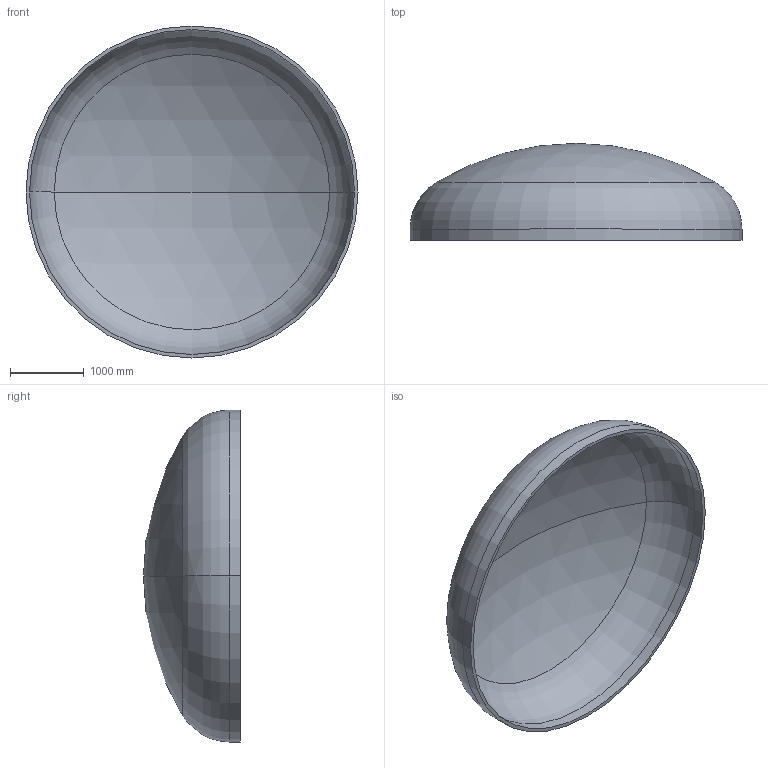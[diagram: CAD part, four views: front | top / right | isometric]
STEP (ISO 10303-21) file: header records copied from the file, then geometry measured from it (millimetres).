
FILE_DESCRIPTION (( 'STEP AP203' ), '1' );
FILE_NAME ('DIN 28013 Korbbogenform_-_Boden DIN 28013 - 4500 x 150 - I - s=48.step', '2016-07-01T23:30:23', ( '' ), ( '' ), 'SwSTEP 2.0', 'SolidWorks 2013', '' );
FILE_SCHEMA (( 'CONFIG_CONTROL_DESIGN' ));
Length unit declared in the file: millimetre
Products named in the file (1): DIN 28013 Korbbogenform_-_Boden DIN 28013 - 4500 x 150 - I - s=48
Bounding box: 4500 x 1314.46 x 4500 mm (x, y, z)
Volume: 1143790290.5 mm3; surface area: 48334082.7 mm2
Topology: 1 solids, 1 shells, 13 faces, 24 edges, 14 vertices
Faces by surface type: torus 4, cylinder 4, sphere 4, plane 1
Entity records: 407 total; most frequent: DIRECTION 72, CARTESIAN_POINT 52, ORIENTED_EDGE 48, AXIS2_PLACEMENT_3D 34, EDGE_CURVE 24, CIRCLE 20, VERTEX_POINT 14, EDGE_LOOP 14
